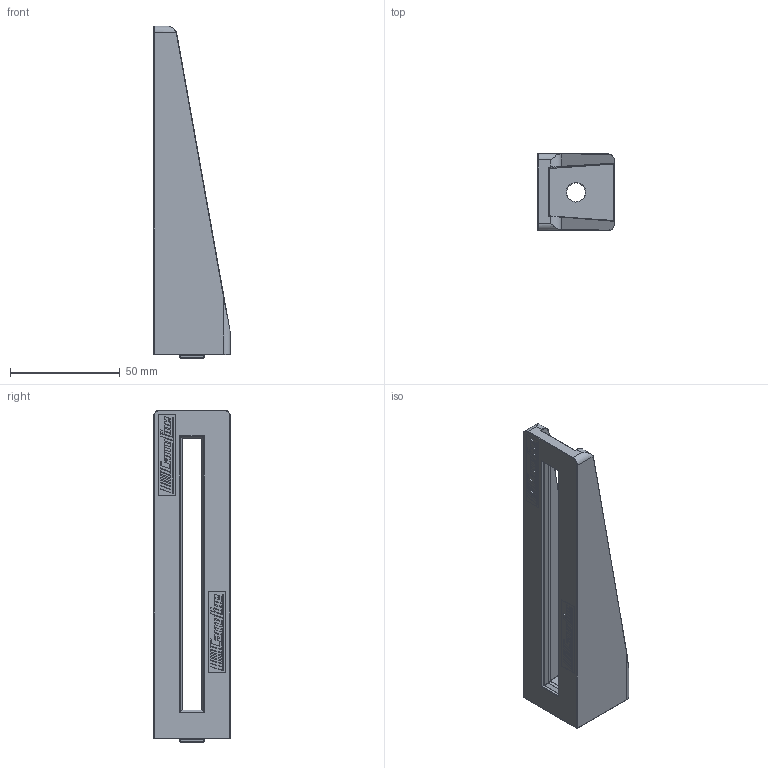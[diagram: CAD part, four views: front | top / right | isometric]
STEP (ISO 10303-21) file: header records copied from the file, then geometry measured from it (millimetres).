
FILE_DESCRIPTION((''),'2;1');
FILE_NAME('X:\Ritarkiv\STEP-Carryline Standarddelar\300-2150.stp','2009-11-02T10:05:39',('per'),(''),'Autodesk Inventor 2010','Autodesk Inventor 2010','');
FILE_SCHEMA(('AUTOMOTIVE_DESIGN { 1 0 10303 214 1 1 1 1 }'));
Length unit declared in the file: millimetre
Products named in the file (1): 300-2150
Bounding box: 35 x 35 x 151.5 mm (x, y, z)
Volume: 55893.5 mm3; surface area: 23355.4 mm2
Topology: 1 solids, 1 shells, 410 faces, 998 edges, 605 vertices
Faces by surface type: plane 289, cylinder 70, bspline 35, torus 8, sphere 8
Entity records: 12430 total; most frequent: CARTESIAN_POINT 2979, ORIENTED_EDGE 1936, DIRECTION 1880, EDGE_CURVE 968, VECTOR 800, LINE 800, VERTEX_POINT 604, AXIS2_PLACEMENT_3D 540
